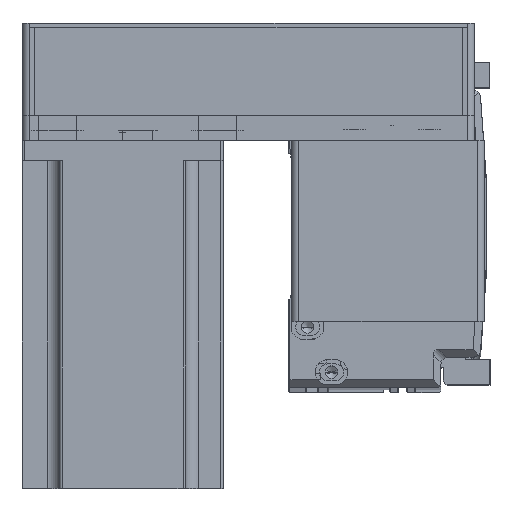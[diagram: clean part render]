
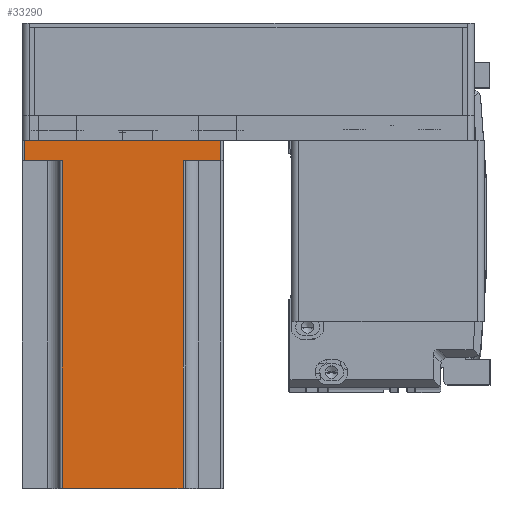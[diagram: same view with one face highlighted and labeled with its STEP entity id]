
A CAD part, top view. The second image highlights one B-rep face of the part: STEP entity #33290.
In plain terms, the highlighted planar face has unit normal (0, 0, 1) as drawn and (0, 1, 0) by its records, which use the part's own axes.
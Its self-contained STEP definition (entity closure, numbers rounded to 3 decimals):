
#1454 = VERTEX_POINT ( 'NONE', #12310 ) ;
#1505 = ORIENTED_EDGE ( 'NONE', *, *, #45592, .T. ) ;
#1830 = CARTESIAN_POINT ( 'NONE',  ( -25., 40., 8. ) ) ;
#3988 = CARTESIAN_POINT ( 'NONE',  ( 24., 40., 8. ) ) ;
#5468 = EDGE_CURVE ( 'NONE', #19110, #45027, #19792, .T. ) ;
#5608 = DIRECTION ( 'NONE',  ( 0., 0., -1. ) ) ;
#6882 = CARTESIAN_POINT ( 'NONE',  ( -39., 40., 138.3 ) ) ;
#7444 = CARTESIAN_POINT ( 'NONE',  ( 40., 40., 138.3 ) ) ;
#7901 = CARTESIAN_POINT ( 'NONE',  ( 40., 40., 0. ) ) ;
#8672 = VERTEX_POINT ( 'NONE', #3988 ) ;
#9542 = VERTEX_POINT ( 'NONE', #13385 ) ;
#9603 = ORIENTED_EDGE ( 'NONE', *, *, #22872, .T. ) ;
#10000 = VECTOR ( 'NONE', #47667, 1000. ) ;
#10599 = DIRECTION ( 'NONE',  ( -1., 0., 0. ) ) ;
#11250 = LINE ( 'NONE', #43669, #10000 ) ;
#11417 = DIRECTION ( 'NONE',  ( 1., 0., 0. ) ) ;
#11723 = VECTOR ( 'NONE', #41652, 1000. ) ;
#11888 = DIRECTION ( 'NONE',  ( -1., 0., 0. ) ) ;
#12310 = CARTESIAN_POINT ( 'NONE',  ( -24., 40., 8. ) ) ;
#12786 = CARTESIAN_POINT ( 'NONE',  ( 39., 40., 8. ) ) ;
#13385 = CARTESIAN_POINT ( 'NONE',  ( -24., 40., 138.3 ) ) ;
#15293 = PLANE ( 'NONE',  #44350 ) ;
#16226 = ORIENTED_EDGE ( 'NONE', *, *, #49669, .F. ) ;
#16369 = EDGE_CURVE ( 'NONE', #31895, #8672, #46944, .T. ) ;
#16452 = DIRECTION ( 'NONE',  ( -1., 0., 0. ) ) ;
#17100 = VECTOR ( 'NONE', #10599, 1000. ) ;
#17355 = EDGE_CURVE ( 'NONE', #25252, #1454, #22301, .T. ) ;
#18642 = CARTESIAN_POINT ( 'NONE',  ( -39., 40., 8. ) ) ;
#19110 = VERTEX_POINT ( 'NONE', #12786 ) ;
#19145 = DIRECTION ( 'NONE',  ( 0., 0., -1. ) ) ;
#19792 = LINE ( 'NONE', #47148, #23557 ) ;
#20271 = LINE ( 'NONE', #7901, #29686 ) ;
#21424 = CARTESIAN_POINT ( 'NONE',  ( 24., 40., 138.3 ) ) ;
#22301 = LINE ( 'NONE', #1830, #11723 ) ;
#22872 = EDGE_CURVE ( 'NONE', #1454, #9542, #11250, .T. ) ;
#23557 = VECTOR ( 'NONE', #19145, 1000. ) ;
#25252 = VERTEX_POINT ( 'NONE', #18642 ) ;
#27088 = ORIENTED_EDGE ( 'NONE', *, *, #39950, .T. ) ;
#27803 = EDGE_CURVE ( 'NONE', #19110, #8672, #44530, .T. ) ;
#29686 = VECTOR ( 'NONE', #11888, 1000. ) ;
#30053 = VECTOR ( 'NONE', #34952, 1000. ) ;
#30382 = ORIENTED_EDGE ( 'NONE', *, *, #27803, .F. ) ;
#31297 = LINE ( 'NONE', #6882, #30053 ) ;
#31895 = VERTEX_POINT ( 'NONE', #21424 ) ;
#32501 = CARTESIAN_POINT ( 'NONE',  ( 25., 40., 8. ) ) ;
#33290 = ADVANCED_FACE ( 'NONE', ( #44396 ), #15293, .F. ) ;
#34316 = CARTESIAN_POINT ( 'NONE',  ( 40., 40., 138.3 ) ) ;
#34952 = DIRECTION ( 'NONE',  ( 0., 0., 1. ) ) ;
#35343 = DIRECTION ( 'NONE',  ( 0., -1., 0. ) ) ;
#36415 = VECTOR ( 'NONE', #5608, 1000. ) ;
#38309 = LINE ( 'NONE', #34316, #17100 ) ;
#38831 = EDGE_LOOP ( 'NONE', ( #47606, #9603, #16226, #44487, #30382, #47631, #27088, #1505 ) ) ;
#39950 = EDGE_CURVE ( 'NONE', #45027, #42020, #20271, .T. ) ;
#41222 = CARTESIAN_POINT ( 'NONE',  ( 24., 40., 138.3 ) ) ;
#41652 = DIRECTION ( 'NONE',  ( 1., 0., 0. ) ) ;
#42020 = VERTEX_POINT ( 'NONE', #47275 ) ;
#43669 = CARTESIAN_POINT ( 'NONE',  ( -24., 40., 138.3 ) ) ;
#44350 = AXIS2_PLACEMENT_3D ( 'NONE', #7444, #35343, #11417 ) ;
#44396 = FACE_OUTER_BOUND ( 'NONE', #38831, .T. ) ;
#44487 = ORIENTED_EDGE ( 'NONE', *, *, #16369, .T. ) ;
#44530 = LINE ( 'NONE', #32501, #45801 ) ;
#45027 = VERTEX_POINT ( 'NONE', #50424 ) ;
#45592 = EDGE_CURVE ( 'NONE', #42020, #25252, #31297, .T. ) ;
#45801 = VECTOR ( 'NONE', #16452, 1000. ) ;
#46944 = LINE ( 'NONE', #41222, #36415 ) ;
#47148 = CARTESIAN_POINT ( 'NONE',  ( 39., 40., 138.3 ) ) ;
#47275 = CARTESIAN_POINT ( 'NONE',  ( -39., 40., 0. ) ) ;
#47606 = ORIENTED_EDGE ( 'NONE', *, *, #17355, .T. ) ;
#47631 = ORIENTED_EDGE ( 'NONE', *, *, #5468, .T. ) ;
#47667 = DIRECTION ( 'NONE',  ( 0., 0., 1. ) ) ;
#49669 = EDGE_CURVE ( 'NONE', #31895, #9542, #38309, .T. ) ;
#50424 = CARTESIAN_POINT ( 'NONE',  ( 39., 40., 0. ) ) ;
